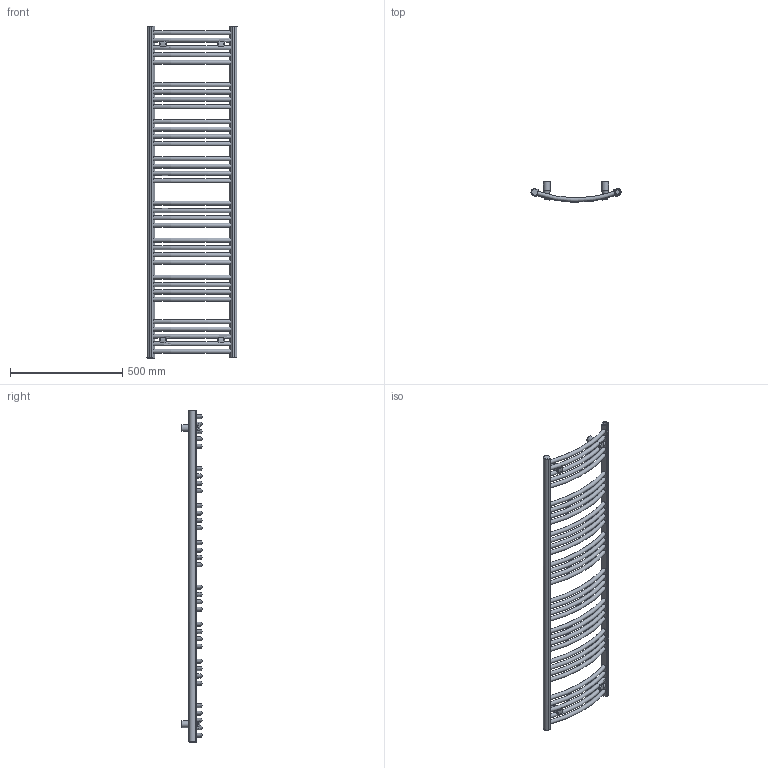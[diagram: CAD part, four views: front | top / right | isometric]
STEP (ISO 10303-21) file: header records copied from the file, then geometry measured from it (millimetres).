
FILE_DESCRIPTION((''),'2;1');
FILE_NAME('Z:\R\G\P\RGPH14 - Grzejnik Domi\Work\Inventor\Marketing\STEP\DO-14-40 SX.stp','2012-07-23T16:32:10',('PioRo'),(''),'Autodesk Inventor 2012','Autodesk Inventor 2012','');
FILE_SCHEMA(('AUTOMOTIVE_DESIGN { 1 0 10303 214 1 1 1 1 }'));
Length unit declared in the file: millimetre
Products named in the file (1): DO-14-40 SX
Bounding box: 401.14 x 89.89 x 1479 mm (x, y, z)
Volume: 5543991.5 mm3; surface area: 1002917.8 mm2
Topology: 1 solids, 5 shells, 238 faces, 590 edges, 379 vertices
Faces by surface type: cylinder 85, plane 79, torus 50, bspline 20, cone 4
Full cylindrical faces by diameter (mm): 5 x8, 9 x4, 18.631 x3, 21.8 x4, 30 x4
Entity records: 8058 total; most frequent: CARTESIAN_POINT 2223, DIRECTION 1155, ORIENTED_EDGE 1034, EDGE_CURVE 517, AXIS2_PLACEMENT_3D 499, EDGE_LOOP 406, VERTEX_POINT 367, CIRCLE 260
